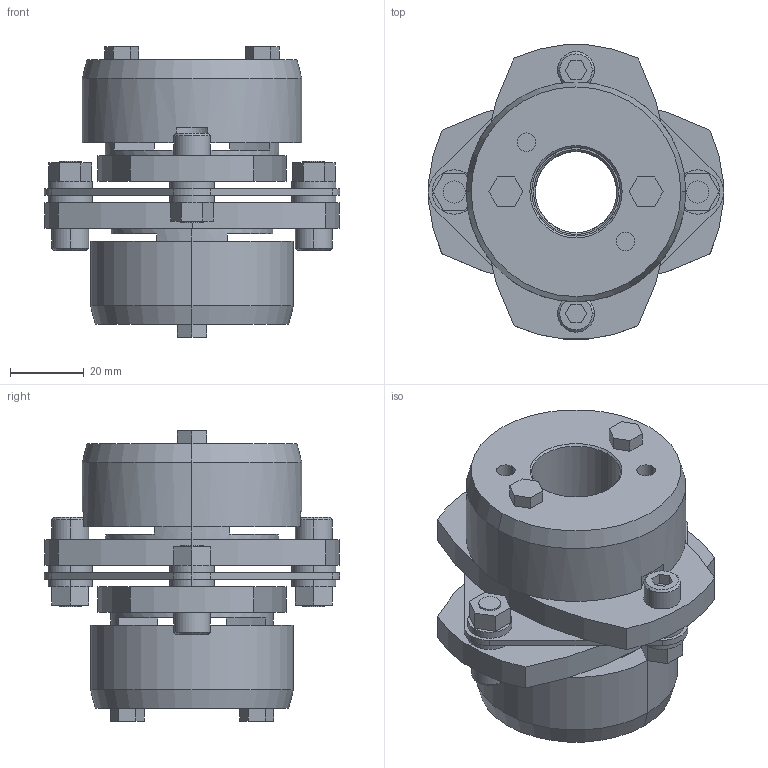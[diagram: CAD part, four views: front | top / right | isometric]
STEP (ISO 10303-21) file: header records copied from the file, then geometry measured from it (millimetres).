
FILE_DESCRIPTION((''),'2;1');
FILE_NAME('LCS-80T7-22×24.stp','2011-09-12T15:50:13',(''),(''),'AutoCAD STEP 2000i','AutoCAD 2000i',', , ');
FILE_SCHEMA(('CONFIG_CONTROL_DESIGN'));
Length unit declared in the file: millimetre
Products named in the file (9): LCS-80T7-22×24; 忣兜1; LC80T7-T024; LC80T7-T022-1; LC80T7-T022; LC80T7-T019; LC80T7-T017-1; LC80T7-T017; LCS80-ITA
Assembly tree (8 placements, depth 2):
  LCS-80T7-22×24
    忣兜1
    LC80T7-T024
    LC80T7-T022-1
    LC80T7-T022
    LC80T7-T019
    LC80T7-T017-1
    LC80T7-T017
    LCS80-ITA
Bounding box: 80 x 79.95 x 78.75 mm (x, y, z)
Volume: 153807.1 mm3; surface area: 43254.3 mm2
Topology: 1 solids, 1 shells, 222 faces, 544 edges, 356 vertices
Faces by surface type: plane 120, cylinder 82, cone 20
Entity records: 6815 total; most frequent: DIRECTION 1210, CARTESIAN_POINT 1131, ORIENTED_EDGE 1088, EDGE_CURVE 544, AXIS2_PLACEMENT_3D 435, VERTEX_POINT 356, VECTOR 340, LINE 340
